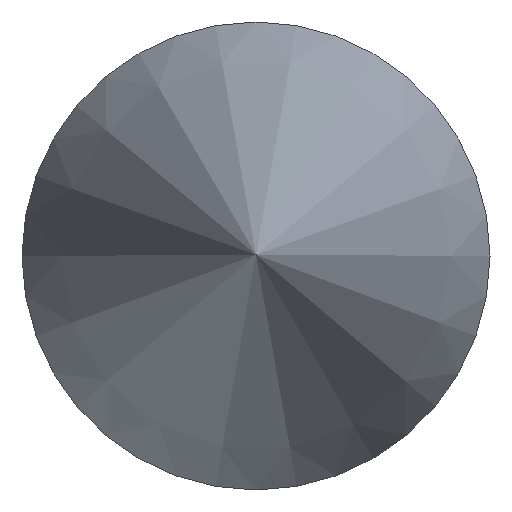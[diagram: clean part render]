
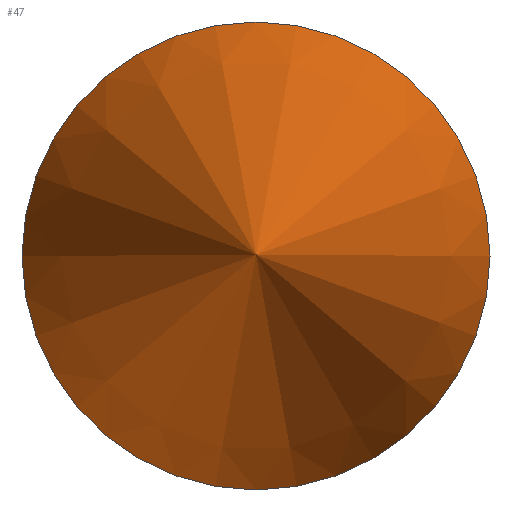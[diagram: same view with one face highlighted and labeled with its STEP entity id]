
A CAD part, top view. The second image highlights one B-rep face of the part: STEP entity #47.
In plain terms, the highlighted conical face has half-angle 18.435 degrees and reference radius 10 mm.
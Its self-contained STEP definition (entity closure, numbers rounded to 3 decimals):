
#18=CARTESIAN_POINT('',(0.0,0.0,0.0));
#19=DIRECTION('',(0.0,0.0,1.0));
#20=DIRECTION('',(1.0,0.0,0.0));
#21=AXIS2_PLACEMENT_3D('',#18,#19,#20);
#22=CIRCLE('',#21,10.0);
#23=CARTESIAN_POINT('',(10.0,0.0,0.0));
#24=VERTEX_POINT('',#23);
#25=EDGE_CURVE('',#24,#24,#22,.T.);
#35=CARTESIAN_POINT('',(0.0,0.0,0.0));
#36=DIRECTION('',(0.0,0.0,-1.0));
#37=DIRECTION('',(1.0,0.0,0.0));
#38=AXIS2_PLACEMENT_3D('',#35,#36,#37);
#39=CONICAL_SURFACE('',#38,10.0,0.322);
#40=ORIENTED_EDGE('',*,*,#25,.T.);
#41=EDGE_LOOP('',(#40));
#42=CARTESIAN_POINT('',(0.0,0.0,30.0));
#43=VERTEX_POINT('',#42);
#44=VERTEX_LOOP('',#43);
#45=FACE_OUTER_BOUND('',#41,.T.);
#46=FACE_BOUND('',#44,.T.);
#47=ADVANCED_FACE('',(#45,#46),#39,.T.);
